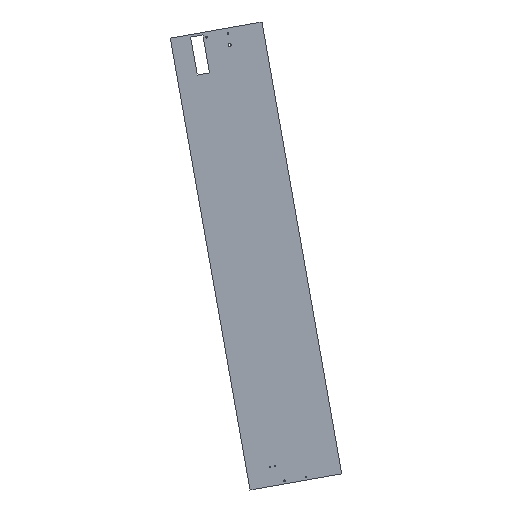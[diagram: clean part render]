
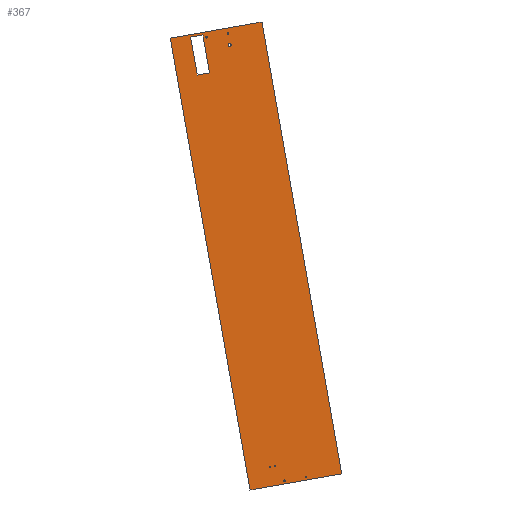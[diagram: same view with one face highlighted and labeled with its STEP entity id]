
A CAD part, left-side view. The second image highlights one B-rep face of the part: STEP entity #367.
In plain terms, the highlighted planar face has unit normal (-1, 0, 0).
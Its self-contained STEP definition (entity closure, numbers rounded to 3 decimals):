
#27=CARTESIAN_POINT('',(-284.5,-122.618,206.727));
#28=VERTEX_POINT('',#27);
#45=CARTESIAN_POINT('',(-284.5,-418.06,258.821));
#46=VERTEX_POINT('',#45);
#53=CARTESIAN_POINT('',(-284.5,-122.618,206.727));
#54=DIRECTION('',(0.0,-0.985,0.174));
#55=VECTOR('',#54,1.);
#56=LINE('',#53,#55);
#57=EDGE_CURVE('',#28,#46,#56,.T.);
#209=CARTESIAN_POINT('',(-284.5,134.034,1662.273));
#210=VERTEX_POINT('',#209);
#217=CARTESIAN_POINT('',(-284.5,-161.408,1714.367));
#218=VERTEX_POINT('',#217);
#219=CARTESIAN_POINT('',(-284.5,134.034,1662.273));
#220=DIRECTION('',(0.0,-0.985,0.174));
#221=VECTOR('',#220,1.);
#222=LINE('',#219,#221);
#223=EDGE_CURVE('',#210,#218,#222,.T.);
#235=CARTESIAN_POINT('',(-284.5,134.034,1662.273));
#236=DIRECTION('',(-1.0,0.0,0.0));
#237=DIRECTION('',(0.0,-0.174,-0.985));
#238=AXIS2_PLACEMENT_3D('',#235,#236,#237);
#239=PLANE('',#238);
#240=CARTESIAN_POINT('',(-284.5,134.034,1662.273));
#241=DIRECTION('',(0.,-0.174,-0.985));
#242=VECTOR('',#241,1.);
#243=LINE('',#240,#242);
#244=EDGE_CURVE('',#210,#28,#243,.T.);
#245=ORIENTED_EDGE('',*,*,#244,.T.);
#246=ORIENTED_EDGE('',*,*,#57,.T.);
#247=CARTESIAN_POINT('',(-284.5,-161.408,1714.367));
#248=DIRECTION('',(0.,-0.174,-0.985));
#249=VECTOR('',#248,1.);
#250=LINE('',#247,#249);
#251=EDGE_CURVE('',#218,#46,#250,.T.);
#252=ORIENTED_EDGE('',*,*,#251,.F.);
#253=ORIENTED_EDGE('',*,*,#223,.F.);
#254=EDGE_LOOP('',(#245,#246,#252,#253));
#255=FACE_OUTER_BOUND('',#254,.T.);
#256=CARTESIAN_POINT('',(-284.5,47.1,1543.565));
#257=VERTEX_POINT('',#256);
#258=CARTESIAN_POINT('',(-284.5,68.632,1665.681));
#259=VERTEX_POINT('',#258);
#260=CARTESIAN_POINT('',(-284.5,47.1,1543.565));
#261=DIRECTION('',(0.0,0.174,0.985));
#262=VECTOR('',#261,1.);
#263=LINE('',#260,#262);
#264=EDGE_CURVE('',#257,#259,#263,.T.);
#265=ORIENTED_EDGE('',*,*,#264,.T.);
#266=CARTESIAN_POINT('',(-284.5,29.24,1672.627));
#267=VERTEX_POINT('',#266);
#268=CARTESIAN_POINT('',(-284.5,29.24,1672.627));
#269=DIRECTION('',(0.0,0.985,-0.174));
#270=VECTOR('',#269,1.);
#271=LINE('',#268,#270);
#272=EDGE_CURVE('',#267,#259,#271,.T.);
#273=ORIENTED_EDGE('',*,*,#272,.F.);
#274=CARTESIAN_POINT('',(-284.5,7.708,1550.511));
#275=VERTEX_POINT('',#274);
#276=CARTESIAN_POINT('',(-284.5,7.708,1550.511));
#277=DIRECTION('',(0.0,0.174,0.985));
#278=VECTOR('',#277,1.);
#279=LINE('',#276,#278);
#280=EDGE_CURVE('',#275,#267,#279,.T.);
#281=ORIENTED_EDGE('',*,*,#280,.F.);
#282=CARTESIAN_POINT('',(-284.5,47.1,1543.565));
#283=DIRECTION('',(0.0,-0.985,0.174));
#284=VECTOR('',#283,1.);
#285=LINE('',#282,#284);
#286=EDGE_CURVE('',#257,#275,#285,.T.);
#287=ORIENTED_EDGE('',*,*,#286,.F.);
#288=EDGE_LOOP('',(#265,#273,#281,#287));
#289=FACE_BOUND('',#288,.T.);
#290=CARTESIAN_POINT('',(-284.5,-56.925,1644.665));
#291=VERTEX_POINT('',#290);
#292=CARTESIAN_POINT('',(-284.5,-57.706,1640.233));
#293=DIRECTION('',(1.0,0.,0.));
#294=DIRECTION('',(0.,0.174,0.985));
#295=AXIS2_PLACEMENT_3D('',#292,#293,#294);
#296=CIRCLE('',#295,4.5);
#297=EDGE_CURVE('',#291,#291,#296,.T.);
#298=ORIENTED_EDGE('',*,*,#297,.T.);
#299=EDGE_LOOP('',(#298));
#300=FACE_BOUND('',#299,.T.);
#301=CARTESIAN_POINT('',(-284.5,18.177,1667.47));
#302=VERTEX_POINT('',#301);
#303=CARTESIAN_POINT('',(-284.5,17.742,1665.008));
#304=DIRECTION('',(1.0,0.,0.));
#305=DIRECTION('',(0.,0.174,0.985));
#306=AXIS2_PLACEMENT_3D('',#303,#304,#305);
#307=CIRCLE('',#306,2.5);
#308=EDGE_CURVE('',#302,#302,#307,.T.);
#309=ORIENTED_EDGE('',*,*,#308,.T.);
#310=EDGE_LOOP('',(#309));
#311=FACE_BOUND('',#310,.T.);
#312=CARTESIAN_POINT('',(-284.5,-50.76,1679.625));
#313=VERTEX_POINT('',#312);
#314=CARTESIAN_POINT('',(-284.5,-51.194,1677.163));
#315=DIRECTION('',(1.0,0.,0.));
#316=DIRECTION('',(0.,0.174,0.985));
#317=AXIS2_PLACEMENT_3D('',#314,#315,#316);
#318=CIRCLE('',#317,2.5);
#319=EDGE_CURVE('',#313,#313,#318,.T.);
#320=ORIENTED_EDGE('',*,*,#319,.T.);
#321=EDGE_LOOP('',(#320));
#322=FACE_BOUND('',#321,.T.);
#323=CARTESIAN_POINT('',(-284.5,-233.7,239.006));
#324=VERTEX_POINT('',#323);
#325=CARTESIAN_POINT('',(-284.5,-234.134,236.544));
#326=DIRECTION('',(1.0,0.,0.));
#327=DIRECTION('',(0.,0.174,0.985));
#328=AXIS2_PLACEMENT_3D('',#325,#326,#327);
#329=CIRCLE('',#328,2.5);
#330=EDGE_CURVE('',#324,#324,#329,.T.);
#331=ORIENTED_EDGE('',*,*,#330,.T.);
#332=EDGE_LOOP('',(#331));
#333=FACE_BOUND('',#332,.T.);
#334=CARTESIAN_POINT('',(-284.5,-302.637,251.162));
#335=VERTEX_POINT('',#334);
#336=CARTESIAN_POINT('',(-284.5,-303.071,248.7));
#337=DIRECTION('',(1.0,0.,0.));
#338=DIRECTION('',(0.,0.174,0.985));
#339=AXIS2_PLACEMENT_3D('',#336,#337,#338);
#340=CIRCLE('',#339,2.5);
#341=EDGE_CURVE('',#335,#335,#340,.T.);
#342=ORIENTED_EDGE('',*,*,#341,.T.);
#343=EDGE_LOOP('',(#342));
#344=FACE_BOUND('',#343,.T.);
#345=CARTESIAN_POINT('',(-284.5,-187.491,282.239));
#346=VERTEX_POINT('',#345);
#347=CARTESIAN_POINT('',(-284.5,-187.856,280.171));
#348=DIRECTION('',(1.0,0.,0.));
#349=DIRECTION('',(0.,0.174,0.985));
#350=AXIS2_PLACEMENT_3D('',#347,#348,#349);
#351=CIRCLE('',#350,2.1);
#352=EDGE_CURVE('',#346,#346,#351,.T.);
#353=ORIENTED_EDGE('',*,*,#352,.T.);
#354=EDGE_LOOP('',(#353));
#355=FACE_BOUND('',#354,.T.);
#356=CARTESIAN_POINT('',(-284.5,-203.248,285.017));
#357=VERTEX_POINT('',#356);
#358=CARTESIAN_POINT('',(-284.5,-203.612,282.949));
#359=DIRECTION('',(1.0,0.,0.));
#360=DIRECTION('',(0.,0.174,0.985));
#361=AXIS2_PLACEMENT_3D('',#358,#359,#360);
#362=CIRCLE('',#361,2.1);
#363=EDGE_CURVE('',#357,#357,#362,.T.);
#364=ORIENTED_EDGE('',*,*,#363,.T.);
#365=EDGE_LOOP('',(#364));
#366=FACE_BOUND('',#365,.T.);
#367=ADVANCED_FACE('',(#255,#289,#300,#311,#322,#333,#344,#355,#366),#239,.T.);
